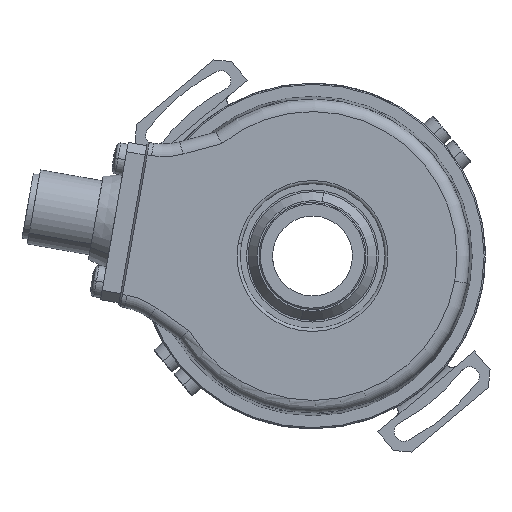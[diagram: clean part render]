
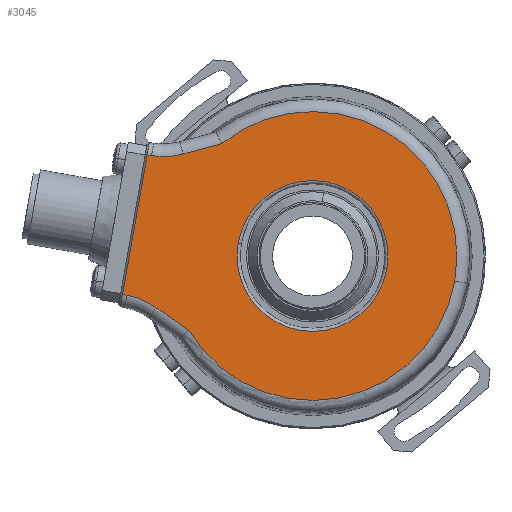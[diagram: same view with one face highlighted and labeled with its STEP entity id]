
A CAD part, left-side view. The second image highlights one B-rep face of the part: STEP entity #3045.
In plain terms, the highlighted planar face has unit normal (-1, 0, 0).
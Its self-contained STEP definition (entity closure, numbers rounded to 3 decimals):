
#53 = VECTOR ( 'NONE', #26235, 1000. ) ;
#326 = VERTEX_POINT ( 'NONE', #12564 ) ;
#404 = CARTESIAN_POINT ( 'NONE',  ( -21., 31.795, -18.018 ) ) ;
#870 = DIRECTION ( 'NONE',  ( 0., 0.174, -0.985 ) ) ;
#883 = CARTESIAN_POINT ( 'NONE',  ( -21., 14.436, 17.869 ) ) ;
#945 = VERTEX_POINT ( 'NONE', #10399 ) ;
#1069 = FACE_BOUND ( 'NONE', #18515, .T. ) ;
#1169 = AXIS2_PLACEMENT_3D ( 'NONE', #5836, #20689, #7997 ) ;
#1361 = AXIS2_PLACEMENT_3D ( 'NONE', #20337, #7736, #22589 ) ;
#1930 = CARTESIAN_POINT ( 'NONE',  ( -21., -22.623, -3.989 ) ) ;
#2411 = EDGE_CURVE ( 'NONE', #24640, #945, #17079, .T. ) ;
#2543 = DIRECTION ( 'NONE',  ( 0., -0.985, -0.174 ) ) ;
#2545 = EDGE_CURVE ( 'NONE', #13409, #15695, #24405, .T. ) ;
#2632 = EDGE_CURVE ( 'NONE', #7416, #326, #27365, .T. ) ;
#3045 = ADVANCED_FACE ( 'NONE', ( #1069, #6761 ), #20437, .F. ) ;
#4098 = VERTEX_POINT ( 'NONE', #9413 ) ;
#4911 = ORIENTED_EDGE ( 'NONE', *, *, #2545, .T. ) ;
#4941 = VECTOR ( 'NONE', #23634, 1000. ) ;
#4972 = VERTEX_POINT ( 'NONE', #883 ) ;
#5013 = LINE ( 'NONE', #17581, #26297 ) ;
#5562 = EDGE_CURVE ( 'NONE', #4098, #10318, #14262, .T. ) ;
#5615 = EDGE_CURVE ( 'NONE', #13350, #17444, #13613, .T. ) ;
#5836 = CARTESIAN_POINT ( 'NONE',  ( -21., 0., 0. ) ) ;
#5872 = CIRCLE ( 'NONE', #16719, 22.972 ) ;
#6761 = FACE_OUTER_BOUND ( 'NONE', #20825, .T. ) ;
#6960 = CARTESIAN_POINT ( 'NONE',  ( -21., -11.818, -2.084 ) ) ;
#7416 = VERTEX_POINT ( 'NONE', #15314 ) ;
#7653 = CARTESIAN_POINT ( 'NONE',  ( -21., 0., 0. ) ) ;
#7680 = DIRECTION ( 'NONE',  ( 1., 0., 0. ) ) ;
#7693 = VECTOR ( 'NONE', #13360, 1000. ) ;
#7736 = DIRECTION ( 'NONE',  ( 1., 0., 0. ) ) ;
#7899 = CARTESIAN_POINT ( 'NONE',  ( -21., 0., 0. ) ) ;
#7997 = DIRECTION ( 'NONE',  ( 0., -0.985, -0.174 ) ) ;
#8352 = EDGE_CURVE ( 'NONE', #17444, #4972, #5872, .T. ) ;
#8773 = CIRCLE ( 'NONE', #19796, 12. ) ;
#8779 = CARTESIAN_POINT ( 'NONE',  ( -21., 2.243, -11.538 ) ) ;
#9413 = CARTESIAN_POINT ( 'NONE',  ( -21., 11.818, 2.084 ) ) ;
#9782 = DIRECTION ( 'NONE',  ( 0., -0.985, -0.174 ) ) ;
#9929 = CARTESIAN_POINT ( 'NONE',  ( -21., 26.304, 16.067 ) ) ;
#9956 = ORIENTED_EDGE ( 'NONE', *, *, #8352, .T. ) ;
#10021 = DIRECTION ( 'NONE',  ( 0., -0.985, -0.174 ) ) ;
#10318 = VERTEX_POINT ( 'NONE', #6960 ) ;
#10399 = CARTESIAN_POINT ( 'NONE',  ( -21., 24.912, -8.189 ) ) ;
#10643 = CARTESIAN_POINT ( 'NONE',  ( -21., 29.505, -6.239 ) ) ;
#10680 = CARTESIAN_POINT ( 'NONE',  ( -21., 0., 0. ) ) ;
#10952 = ORIENTED_EDGE ( 'NONE', *, *, #2411, .T. ) ;
#11318 = EDGE_CURVE ( 'NONE', #10318, #4098, #8773, .T. ) ;
#11367 = CARTESIAN_POINT ( 'NONE',  ( -21., 20.609, 16.215 ) ) ;
#11382 = LINE ( 'NONE', #11367, #53 ) ;
#11748 = ORIENTED_EDGE ( 'NONE', *, *, #11318, .T. ) ;
#11860 = ORIENTED_EDGE ( 'NONE', *, *, #16996, .T. ) ;
#12423 = AXIS2_PLACEMENT_3D ( 'NONE', #20357, #7680, #22524 ) ;
#12533 = ORIENTED_EDGE ( 'NONE', *, *, #14377, .T. ) ;
#12564 = CARTESIAN_POINT ( 'NONE',  ( -21., 25.592, 15.954 ) ) ;
#12822 = DIRECTION ( 'NONE',  ( 0., -0.985, -0.174 ) ) ;
#13340 = LINE ( 'NONE', #26087, #7693 ) ;
#13350 = VERTEX_POINT ( 'NONE', #26754 ) ;
#13360 = DIRECTION ( 'NONE',  ( 0., 0.988, 0.156 ) ) ;
#13409 = VERTEX_POINT ( 'NONE', #9929 ) ;
#13534 = ORIENTED_EDGE ( 'NONE', *, *, #5615, .T. ) ;
#13613 = CIRCLE ( 'NONE', #1169, 22.972 ) ;
#13622 = CARTESIAN_POINT ( 'NONE',  ( -21., 30.212, -6.096 ) ) ;
#13676 = ORIENTED_EDGE ( 'NONE', *, *, #2632, .T. ) ;
#14262 = CIRCLE ( 'NONE', #25925, 12. ) ;
#14371 = AXIS2_PLACEMENT_3D ( 'NONE', #404, #15286, #2543 ) ;
#14377 = EDGE_CURVE ( 'NONE', #4972, #7416, #11382, .T. ) ;
#15286 = DIRECTION ( 'NONE',  ( 1., 0., 0. ) ) ;
#15314 = CARTESIAN_POINT ( 'NONE',  ( -21., 20.609, 16.215 ) ) ;
#15337 = EDGE_CURVE ( 'NONE', #326, #13409, #13340, .T. ) ;
#15481 = EDGE_CURVE ( 'NONE', #945, #13350, #5013, .T. ) ;
#15695 = VERTEX_POINT ( 'NONE', #24735 ) ;
#16249 = LINE ( 'NONE', #8779, #4941 ) ;
#16719 = AXIS2_PLACEMENT_3D ( 'NONE', #7899, #22757, #10021 ) ;
#16996 = EDGE_CURVE ( 'NONE', #15695, #24640, #16249, .T. ) ;
#17079 = CIRCLE ( 'NONE', #14371, 12. ) ;
#17444 = VERTEX_POINT ( 'NONE', #1930 ) ;
#17581 = CARTESIAN_POINT ( 'NONE',  ( -21., 19.944, -11.667 ) ) ;
#18515 = EDGE_LOOP ( 'NONE', ( #11748, #18672 ) ) ;
#18672 = ORIENTED_EDGE ( 'NONE', *, *, #5562, .T. ) ;
#18735 = VECTOR ( 'NONE', #870, 1000. ) ;
#19700 = DIRECTION ( 'NONE',  ( 0., -0.819, -0.574 ) ) ;
#19765 = ORIENTED_EDGE ( 'NONE', *, *, #15337, .T. ) ;
#19796 = AXIS2_PLACEMENT_3D ( 'NONE', #10680, #25549, #12822 ) ;
#20337 = CARTESIAN_POINT ( 'NONE',  ( -21., 0., 0. ) ) ;
#20357 = CARTESIAN_POINT ( 'NONE',  ( -21., 23.715, 27.806 ) ) ;
#20437 = PLANE ( 'NONE',  #1361 ) ;
#20689 = DIRECTION ( 'NONE',  ( -1., 0., 0. ) ) ;
#20825 = EDGE_LOOP ( 'NONE', ( #19765, #4911, #11860, #10952, #23014, #13534, #9956, #12533, #13676 ) ) ;
#22504 = DIRECTION ( 'NONE',  ( 1., 0., 0. ) ) ;
#22524 = DIRECTION ( 'NONE',  ( 0., -0.985, -0.174 ) ) ;
#22589 = DIRECTION ( 'NONE',  ( 0., -0.985, -0.174 ) ) ;
#22757 = DIRECTION ( 'NONE',  ( -1., 0., 0. ) ) ;
#23014 = ORIENTED_EDGE ( 'NONE', *, *, #15481, .T. ) ;
#23634 = DIRECTION ( 'NONE',  ( 0., -0.982, -0.191 ) ) ;
#24405 = LINE ( 'NONE', #13622, #18735 ) ;
#24640 = VERTEX_POINT ( 'NONE', #10643 ) ;
#24735 = CARTESIAN_POINT ( 'NONE',  ( -21., 30.213, -6.101 ) ) ;
#25549 = DIRECTION ( 'NONE',  ( 1., 0., 0. ) ) ;
#25925 = AXIS2_PLACEMENT_3D ( 'NONE', #7653, #22504, #9782 ) ;
#26087 = CARTESIAN_POINT ( 'NONE',  ( -21., -1.839, 11.609 ) ) ;
#26235 = DIRECTION ( 'NONE',  ( 0., 0.966, -0.259 ) ) ;
#26297 = VECTOR ( 'NONE', #19700, 1000. ) ;
#26754 = CARTESIAN_POINT ( 'NONE',  ( -21., 19.677, -11.854 ) ) ;
#27365 = CIRCLE ( 'NONE', #12423, 12. ) ;
